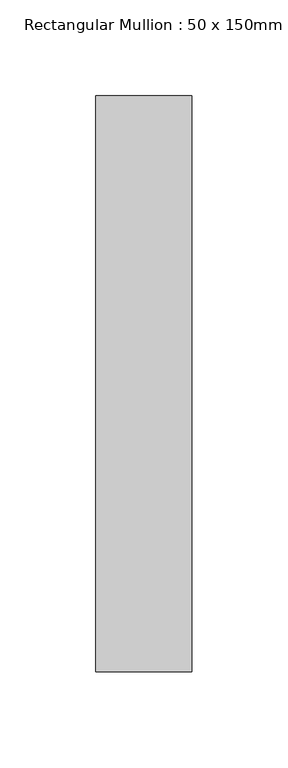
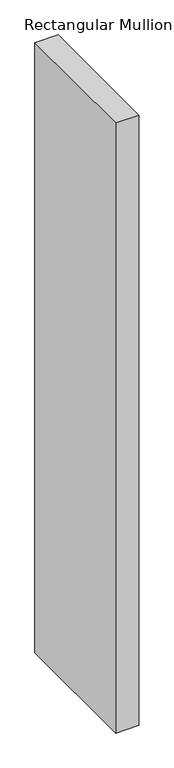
"""IFC4 building model written with IfcOpenShell, lengths in millimetres: member geometry, Rectangular Mullion : 50 x 150mm."""

from ifc_helpers import new_model, si_unit, frame, origin, place, context, project, spatial, polyline, outline, extrude, source, transform, mapped, element, save


def rectangular_mullion_50_x_150mm_cfcca5c0(model_context):
    return source(origin(), model_context, "Body", "SweptSolid", [
        extrude(outline(polyline([(0.0, 175.0), (0.0, -125.0), (-50.0, -125.0), (-50.0, 175.0), (0.0, 175.0)])), frame((0.0, 0.0, -1385.0309231), z_axis=(0.0, 0.0, 1.0), x_axis=(1.0, 0.0, 0.0)), (0.0, 0.0, 1.0), 1385.0309231),
    ])


if __name__ == "__main__":
    model = new_model("IFC4")
    model_context = context("Model", 3, world=origin())
    ifc_project = project(units=[si_unit("LENGTHUNIT", "METRE", prefix="MILLI")], contexts=[model_context])
    site = spatial("IfcSite", under=ifc_project)
    building = spatial("IfcBuilding", under=site)
    placement = place(None, origin())
    rectangular_mullion_50_x_150mm_shape = rectangular_mullion_50_x_150mm_cfcca5c0(model_context)
    element("IfcMember", 1, ObjectType="Rectangular Mullion : 50 x 150mm", at=placement, inside=building, context=model_context, shape_type="MappedRepresentation", body=[
        mapped(rectangular_mullion_50_x_150mm_shape, transform((0.0, 0.0, 0.0), x_axis=(1.0, 0.0, 0.0), y_axis=(0.0, 1.0, 0.0), z_axis=(0.0, 0.0, 1.0))),
    ])
    save(model, "model.ifc")
